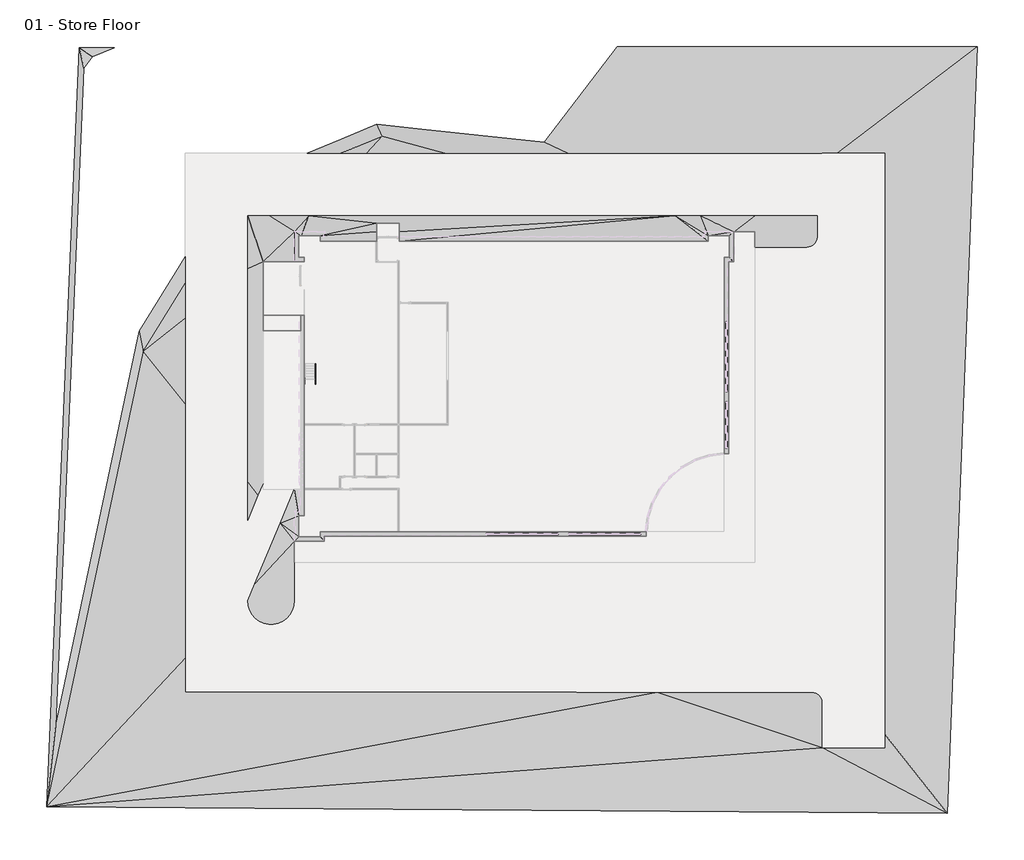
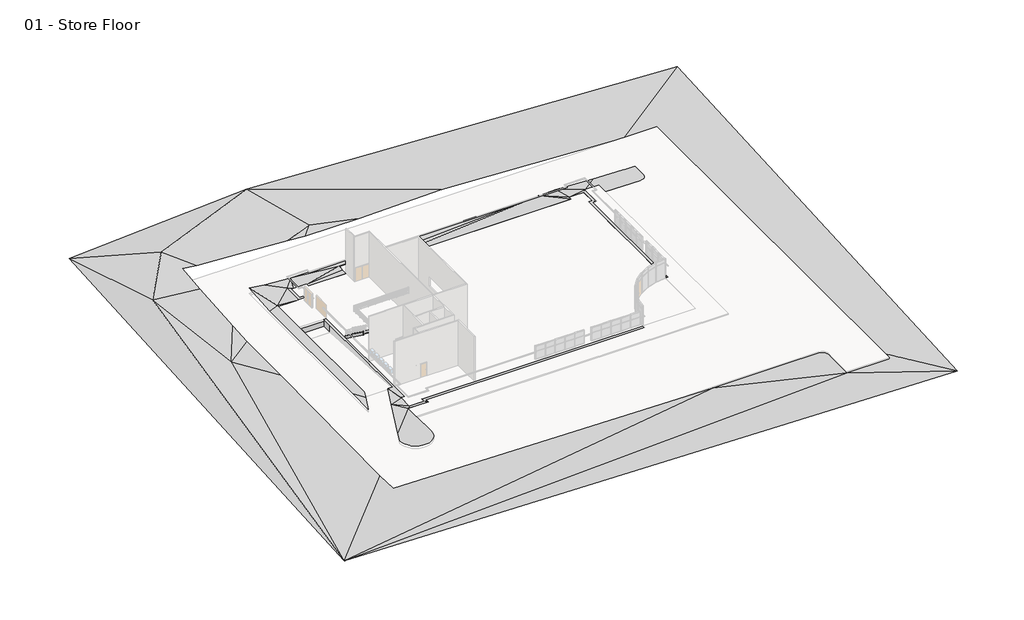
# One storey, part 5 of 5: 4 proxies, 2 members.
"""IFC4 building model written with IfcOpenShell, lengths in millimetres."""

import ifcopenshell
import ifcopenshell.guid

model = None  # the IFC model being written
_history = None  # IfcOwnerHistory: only IFC2X3 demands one
_inside = {}  # id of a spatial element -> (the spatial element, [elements in it])
_under = {}  # id of a project, library or spatial element -> (it, [spatial elements below it])
_declared = {}  # id of a project -> (the project, [libraries it declares])
_typed = {}  # id of a type object -> (the type object, [elements of that type])
_made_of = {}  # id of a material, layer set ... -> (it, [elements and type objects made of it])


def new_model(schema):
    """Start an empty IFC model of exactly this schema.

    Asked for "IFC4X3", IfcOpenShell would pick the latest addendum, in which some entities
    have other attributes; the version numbers below select the first issue.
    IFC2X3 requires an IfcOwnerHistory on every rooted entity: one is made here for all.
    """
    global model, _history
    if schema == "IFC4X3":
        model = ifcopenshell.file(schema_version=(4, 3, 0, 0))
    else:
        model = ifcopenshell.file(schema=schema)
    _inside.clear()
    _under.clear()
    _declared.clear()
    _typed.clear()
    _made_of.clear()
    _history = None
    if model.schema == "IFC2X3":
        org = make("IfcOrganization", Name="unknown")
        user = make(
            "IfcPersonAndOrganization",
            ThePerson=make("IfcPerson", FamilyName="unknown"),
            TheOrganization=org,
        )
        app = make(
            "IfcApplication",
            ApplicationDeveloper=org,
            Version="unknown",
            ApplicationFullName="unknown",
            ApplicationIdentifier="unknown",
        )
        _history = make(
            "IfcOwnerHistory",
            OwningUser=user,
            OwningApplication=app,
            ChangeAction="ADDED",
            CreationDate=0,
        )
    return model


def make(cls, **values):
    """One entity of the class cls with the attributes given. An attribute that is None is left unset."""
    return model.create_entity(
        cls, **{name: value for name, value in values.items() if value is not None}
    )


def rooted(cls, **values):
    """An entity with a GlobalId (a new one), such as an element, a storey or a relation."""
    return make(cls, GlobalId=ifcopenshell.guid.new(), OwnerHistory=_history, **values)


def si_unit(unit_type, name, prefix=None):
    """IfcSIUnit, for example si_unit("LENGTHUNIT", "METRE", prefix="MILLI")."""
    return make("IfcSIUnit", UnitType=unit_type, Prefix=prefix, Name=name)


def assignment(units):
    """IfcUnitAssignment: the units of a project."""
    return None if units is None else make("IfcUnitAssignment", Units=units)


def point(xyz):
    """IfcCartesianPoint."""
    return None if xyz is None else make("IfcCartesianPoint", Coordinates=xyz)


def direction(xyz):
    """IfcDirection."""
    return None if xyz is None else make("IfcDirection", DirectionRatios=xyz)


def frame(location, z_axis=None, x_axis=None):
    """IfcAxis2Placement3D, a coordinate frame: its origin and axes. An axis left out is left unset."""
    return make(
        "IfcAxis2Placement3D",
        Location=point(location),
        Axis=direction(z_axis),
        RefDirection=direction(x_axis),
    )


def origin():
    """The frame at (0, 0, 0) with its axes left unset."""
    return frame((0.0, 0.0, 0.0))


def place(relative_to, where):
    """IfcLocalPlacement: puts the frame where relative to a parent placement (None: the world)."""
    return make(
        "IfcLocalPlacement", PlacementRelTo=relative_to, RelativePlacement=where
    )


def context(
    kind, dimensions, precision=None, world=None, true_north=None, identifier=None
):
    """IfcGeometricRepresentationContext, for example the 3D "Model" context."""
    return make(
        "IfcGeometricRepresentationContext",
        ContextIdentifier=identifier,
        ContextType=kind,
        CoordinateSpaceDimension=dimensions,
        Precision=precision,
        WorldCoordinateSystem=world,
        TrueNorth=true_north,
    )


def project(units=None, contexts=None):
    """IfcProject with its units and contexts."""
    return rooted(
        "IfcProject",
        Name="project",
        RepresentationContexts=contexts,
        UnitsInContext=assignment(units),
    )


def spatial(cls, under=None, at=None, **own):
    """A site, building, storey or space (cls), placed at a placement, below another one or the project."""
    s = rooted(cls, ObjectPlacement=at, **own)
    if under is not None:
        _under.setdefault(under.id(), (under, []))[1].append(s)
    return s


def polyline(points):
    """IfcPolyline through the points."""
    return make("IfcPolyline", Points=[point(p) for p in points])


def point_list(points):
    """IfcCartesianPointList2D or 3D."""
    cls = (
        "IfcCartesianPointList2D" if len(points[0]) == 2 else "IfcCartesianPointList3D"
    )
    return make(cls, CoordList=points)


def outline(outer, holes=None, kind="AREA"):
    """IfcArbitraryClosedProfileDef: a profile drawn as a closed curve; with holes, ...WithVoids."""
    if holes is None:
        return make("IfcArbitraryClosedProfileDef", ProfileType=kind, OuterCurve=outer)
    return make(
        "IfcArbitraryProfileDefWithVoids",
        ProfileType=kind,
        OuterCurve=outer,
        InnerCurves=holes,
    )


def extrude(swept, where, along, depth):
    """IfcExtrudedAreaSolid: the profile swept, set in the frame where, extruded along a direction by depth."""
    return make(
        "IfcExtrudedAreaSolid",
        SweptArea=swept,
        Position=where,
        ExtrudedDirection=direction(along),
        Depth=depth,
    )


def triangles(points, corners, closed=None, point_numbers=None):
    """IfcTriangulatedFaceSet: each triangle names its three corners, points numbered from 1."""
    return make(
        "IfcTriangulatedFaceSet",
        Coordinates=point_list(points),
        Closed=closed,
        CoordIndex=corners,
        PnIndex=point_numbers,
    )


def shape(context_of_items, identifier, shape_type, items):
    """IfcShapeRepresentation: the items that make up one representation, for example the "Body"."""
    return make(
        "IfcShapeRepresentation",
        ContextOfItems=context_of_items,
        RepresentationIdentifier=identifier,
        RepresentationType=shape_type,
        Items=items,
    )


def made_of(thing, what):
    """Note that an element or type object is made of a material, layer set ...; save() writes the relation."""
    if what is not None:
        _made_of.setdefault(what.id(), (what, []))[1].append(thing)
    return thing


def element(
    cls,
    number,
    at=None,
    inside=None,
    cuts=None,
    type_object=None,
    material=None,
    context=None,
    identifier="Body",
    shape_type=None,
    held_by="IfcProductDefinitionShape",
    body=None,
    shapes=None,
    **own,
):
    """One element of the class cls, such as IfcWall. Its Tag is "e" and its number.

    at: its placement. inside: the storey or other place that contains it. cuts: it is an
    opening in that element (IfcRelVoidsElement). A single representation is given by context,
    identifier, shape_type and body (its items); several are given by shapes. held_by: the class
    of the entity that holds the representations. save() writes the other relations.
    """
    e = rooted(cls, Tag="e%d" % number, ObjectPlacement=at, **own)
    if body is not None:
        shapes = [shape(context, identifier, shape_type, body)]
    if shapes is not None:
        e.Representation = make(held_by, Representations=shapes)
    if inside is not None:
        _inside.setdefault(inside.id(), (inside, []))[1].append(e)
    if cuts is not None:
        rooted(
            "IfcRelVoidsElement", RelatingBuildingElement=cuts, RelatedOpeningElement=e
        )
    if type_object is not None:
        _typed.setdefault(type_object.id(), (type_object, []))[1].append(e)
    return made_of(e, material)


def aggregate(whole, parts):
    """IfcRelAggregates: a whole, such as a stair, and the parts it consists of."""
    return rooted("IfcRelAggregates", RelatingObject=whole, RelatedObjects=parts)


def save(model, path):
    """Write the relations noted so far, then the file.

    IfcRelAggregates (storeys below a building ...), IfcRelContainedInSpatialStructure (elements
    in a storey), IfcRelDefinesByType, IfcRelAssociatesMaterial and IfcRelDeclares: one each for
    every whole, place, type object, material and project.
    """
    for whole, parts in _under.values():
        aggregate(whole, parts)
    for where, things in _inside.values():
        rooted(
            "IfcRelContainedInSpatialStructure",
            RelatedElements=things,
            RelatingStructure=where,
        )
    for kind, things in _typed.values():
        rooted("IfcRelDefinesByType", RelatedObjects=things, RelatingType=kind)
    for what, things in _made_of.values():
        rooted("IfcRelAssociatesMaterial", RelatedObjects=things, RelatingMaterial=what)
    for by, libraries in _declared.values():
        rooted("IfcRelDeclares", RelatingContext=by, RelatedDefinitions=libraries)
    model.write(path)


model = new_model("IFC4")

# Units and contexts
model_context = context("Model", 3, world=origin())
ifc_project = project(units=[si_unit("LENGTHUNIT", "METRE", prefix="MILLI")], contexts=[model_context])

# Site, building, storey
site = spatial("IfcSite", under=ifc_project)
building = spatial("IfcBuilding", under=site)
storey = spatial("IfcBuildingStorey", under=building, Name="01 - Store Floor", Elevation=0.0)

# Proxies
placement = place(None, origin())
element("IfcBuildingElementProxy", 1, Name="Building Element Proxy", at=placement, inside=storey, context=model_context, shape_type="Tessellation", body=[
    triangles([(-43566.3082031, 32462.523175, 1000.0000076), (-46716.2229126, -40393.2088623, 1000.0000076), (39777.6557373, -41004.7343262, -500.0000038), (42663.8237549, 32601.6611938, -500.0000038), (-18392.8342987, 32565.4122437, 2500.0000191), (33780.5264465, -34706.930365, -384.9401665), (27780.5275635, -34706.930365, -383.6411179), (27780.5275635, -30406.9323669, -305.9673343), (27731.5840393, -30097.9140198, -300.3747432), (27589.5438721, -29819.144989, -295.30841), (27368.3131897, -29597.9143066, -291.2642528), (27089.5441589, -29455.8741394, -288.6381413), (26780.5281372, -29406.9306152, -287.6871456), (11915.4122314, -29406.9306152, -284.4687919), (-33419.4717407, -29406.9306152, 509.2660807), (-33419.4717407, -26152.3013672, 432.8553014), (-33419.4717407, -1684.9523849, 719.9349804), (-33419.4717407, 6518.3399185, 720.4169277), (-33419.4717407, 9885.0384888, 1000.0000076), (-33419.4717407, 18055.2002563, 1642.8014694), (-33419.4717407, 22343.0687622, 2044.0540123), (-31378.0544861, 22343.0687622, 1780.8529266), (-25462.4923096, 22343.0687622, 1430.5636974), (-18450.5005463, 22343.0687622, 1000.0000076), (-16016.6502686, 22343.0687622, 817.2966974), (-8441.5899673, 22343.0687622, 817.7947048), (3306.7528107, 22343.0687622, 1051.3779762), (29175.0005859, 22343.0687622, -220.2242939), (33780.5264465, 22343.0687622, -317.0081938), (33780.5264465, 15117.0051819, -319.6062183), (33780.5264465, -33407.95849, -361.4759374), (26280.5260986, 13343.0692749, -162.6334778), (26589.5444458, 13392.0116364, -169.1097904), (26868.3134766, 13534.0518036, -174.9169577), (27089.5441589, 13755.2836487, -179.4865371), (27231.5843262, 14034.0515167, -182.3712447), (27280.5278503, 14343.0687012, -183.2886669), (27280.5278503, 16343.0687164, -182.5695974), (21285.7193481, 16343.0687164, -56.5903049), (16043.3172455, 16343.0687164, 201.1098175), (13662.4242004, 16343.0687164, 153.7723545), (-21518.9074402, 16343.0687164, 151.4593325), (-25294.1537476, 16343.0687164, 434.8579408), (-27419.4728577, 16343.0687164, 722.9589964), (-27419.4728577, 11264.0287354, 301.1768745), (-27419.4728577, -9240.2545898, 299.9721152), (-27419.4728577, -12884.300766, 257.215895), (-26417.4247192, -10502.0496643, 229.83499), (-25919.4737183, -9318.2271561, 195.0878195), (-25919.4737183, 5316.5097885, 195.9477053), (-25919.4737183, 6816.5095093, 196.0358358), (-25919.4737183, 11955.0691132, 196.3377614), (-22896.9000732, 11955.0691132, -14.9999997), (-21990.4716797, 11955.0691132, -14.9999997), (-21990.4716797, 12384.0685089, -14.9999997), (-22490.4737183, 12384.0685089, -14.9999997), (-22490.4737183, 14414.0690186, -14.9999997), (-22283.239856, 14414.0690186, -14.9999997), (-20460.4720459, 14414.0690186, -14.9999997), (-20460.4720459, 13914.0681427, -14.9999997), (-15030.2232697, 13914.0681427, -14.9999997), (-15030.2232697, 14838.4070709, -14.9999997), (-15030.2232697, 15634.0689697, 73.2489038), (-12830.2226715, 15634.0689697, 73.3935443), (-12830.2226715, 14837.1024994, -14.9999997), (-12830.2226715, 13914.0681427, -14.9999997), (16821.5267212, 13914.0681427, -14.9999997), (16821.5267212, 14414.0690186, -14.9999997), (18851.5272308, 14414.0690186, -14.9999997), (18851.5272308, 12384.0685089, -14.9999997), (18351.5275177, 12384.0685089, -14.9999997), (18351.5275177, -6481.9310944, -14.9999997), (18780.5269135, -6481.9310944, -14.9999997), (18780.5269135, 11955.0691132, -14.9999997), (19231.5447327, 11955.0691132, -14.9999997), (19280.5277893, 11955.0691132, -16.029345), (19280.5277893, 14818.0687775, -14.9999997), (19280.5277893, 14843.0684143, -14.0659235), (19313.3990387, 14843.0684143, -15.6818087), (21280.5266418, 14843.0684143, -57.0204839), (21280.5266418, 13343.0692749, -57.559786), (-22919.473114, -16906.9308105, 31.9598247), (-22919.473114, -14906.7308075, -14.9999997), (-20031.4726501, -14906.7308075, -15.6252635), (-20031.4726501, -14872.1166412, -14.9999997), (-20031.4726501, -14406.9310822, -14.9999997), (10855.5269257, -14406.9310822, -14.9999997), (10855.5269257, -13977.9316864, -14.9999997), (-20460.4720459, -13977.9316864, -14.9999997), (-20460.4720459, -14477.7314117, -14.9999997), (-22490.4737183, -14477.7314117, -14.9999997), (-22490.4737183, -12447.7309021, -14.9999997), (-21990.4716797, -12447.7309021, -14.9999997), (-21990.4716797, 6816.5095093, -14.9999997), (-22319.4725281, 6816.5095093, -14.9999997), (-22319.4725281, 5316.5097885, -14.9999997), (-22319.4725281, -9923.4907928, -14.9999997), (-22915.2849976, -9923.4907928, -14.9999997), (-22919.473114, -9923.4907928, -14.7072021), (-24289.7755188, -13181.2233398, 80.9126756), (-26734.0263245, -18992.1430664, 147.701713), (-27419.4728577, -20621.7110413, 197.9609908), (-27370.3037659, -21089.5127197, 208.0829929), (-27224.9498474, -21536.8691345, 216.040901), (-26989.7618774, -21944.2279907, 221.4869712), (-26675.0159729, -22293.7880493, 224.1831366), (-26294.471759, -22570.2688477, 224.0115809), (-25864.7607788, -22761.5897278, 220.9798074), (-25404.6609558, -22859.386084, 215.2203116), (-24934.2826904, -22859.386084, 206.9848041), (-24474.1851929, -22761.5897278, 196.6332376), (-24044.4718872, -22570.2688477, 184.6180007), (-23663.9299988, -22293.7880493, 171.4642251), (-23349.1840942, -21944.2279907, 157.746803), (-23113.9961243, -21536.8691345, 144.0652526), (-22968.6398804, -21089.5127197, 131.0175116), (-22919.473114, -20621.7110413, 119.1738304), (-34204.7703186, 26133.4374023, 2500.0000191), (-40234.7441162, 17825.4724182, 2500.0000191), (-14506.8505646, 23989.4473389, 1000.0000076), (-37420.7554138, 3353.5319321, 1000.0000076), (-22894.4723145, 14843.0684143, -14.9999997)], [[2, 15, 16], [121, 2, 16], [102, 108, 109], [102, 107, 108], [109, 110, 102], [103, 106, 107], [106, 103, 104], [102, 103, 107], [101, 102, 117], [104, 105, 106], [111, 102, 110], [46, 47, 48], [112, 113, 102], [113, 114, 102], [116, 102, 115], [117, 102, 116], [102, 114, 115], [117, 82, 101], [83, 100, 101], [92, 99, 100], [100, 83, 91], [101, 82, 83], [92, 98, 99], [97, 92, 93], [92, 97, 98], [84, 91, 83], [92, 100, 91], [111, 112, 102], [14, 15, 2], [121, 18, 19], [18, 121, 17], [121, 19, 119], [45, 51, 52], [49, 50, 46], [51, 45, 50], [121, 16, 17], [119, 21, 118], [21, 119, 20], [5, 1, 118], [118, 1, 119], [21, 22, 118], [1, 2, 119], [44, 52, 43], [20, 119, 19], [52, 44, 45], [118, 22, 23], [119, 2, 121], [45, 46, 50], [122, 52, 53], [97, 94, 96], [93, 94, 97], [94, 95, 96], [46, 48, 49], [53, 54, 56], [42, 43, 122], [57, 122, 53], [122, 57, 58], [43, 52, 122], [55, 56, 54], [58, 42, 122], [59, 42, 58], [56, 57, 53], [5, 118, 23], [89, 90, 86], [91, 84, 90], [85, 90, 84], [86, 88, 89], [85, 86, 90], [88, 86, 87], [74, 71, 72], [72, 73, 74], [74, 75, 70], [76, 70, 75], [74, 70, 71], [10, 8, 9], [7, 8, 13], [6, 3, 31], [3, 6, 7], [7, 14, 2], [8, 10, 11], [80, 81, 32], [33, 37, 32], [11, 12, 13], [37, 33, 34], [13, 8, 11], [35, 37, 34], [31, 3, 30], [7, 13, 14], [2, 3, 7], [76, 77, 70], [62, 59, 61], [61, 59, 60], [63, 59, 62], [64, 65, 41], [66, 41, 65], [41, 42, 64], [5, 23, 24], [120, 5, 24], [24, 25, 120], [63, 64, 42], [26, 27, 5], [26, 120, 25], [5, 120, 26], [5, 27, 4], [42, 59, 63], [68, 40, 41], [68, 69, 78], [78, 69, 77], [78, 79, 39], [38, 32, 37], [69, 70, 77], [37, 35, 36], [68, 78, 40], [78, 39, 40], [39, 79, 80], [39, 80, 32], [39, 32, 38], [29, 4, 28], [4, 29, 30], [30, 3, 4], [4, 27, 28], [68, 41, 67], [67, 41, 66]], closed=False),
])
element("IfcBuildingElementProxy", 2, Name="Building Element Proxy", at=placement, inside=storey, context=model_context, shape_type="Tessellation", body=[
    triangles([(10855.5269257, -13977.9316864, -304.9595106), (10855.5269257, -13977.9316864, -14.9999997), (-20460.4720459, -13977.9316864, -304.9595106), (-20460.4720459, -13977.9316864, -14.9999997), (-20460.4720459, -14477.7314117, -304.9595106), (-20460.4720459, -14477.7314117, -14.9999997), (-22490.4737183, -14477.7314117, -304.9595106), (-22490.4737183, -14477.7314117, -14.9999997), (-22490.4737183, -12447.7309021, -304.9595106), (-22490.4737183, -12447.7309021, -14.9999997), (-21990.4716797, -12447.7309021, -304.9595106), (-21990.4716797, -12447.7309021, -14.9999997), (-21990.4716797, 6816.5095093, -304.9595106), (-21990.4716797, 6816.5095093, -14.9999997), (-22319.4725281, 6816.5095093, -304.9595106), (-22319.4725281, 6816.5095093, -14.9999997)], [[1, 4, 2], [1, 3, 4], [3, 6, 4], [3, 5, 6], [5, 8, 6], [5, 7, 8], [7, 10, 8], [7, 9, 10], [9, 12, 10], [9, 11, 12], [11, 14, 12], [11, 13, 14], [13, 16, 14], [13, 15, 16]], closed=False),
    triangles([(-25919.4737183, 6816.5095093, -304.9595106), (-25919.4737183, 6816.5095093, 196.0358358), (-25919.4737183, 11955.0691132, -304.9595106), (-25919.4737183, 11955.0691132, 196.3377614), (-22896.9000732, 11955.0691132, -304.9595106), (-22896.9000732, 11955.0691132, -14.9999997), (-21990.4716797, 11955.0691132, -304.9595106), (-21990.4716797, 11955.0691132, -14.9999997), (-21990.4716797, 12384.0685089, -304.9595106), (-21990.4716797, 12384.0685089, -14.9999997), (-22490.4737183, 12384.0685089, -304.9595106), (-22490.4737183, 12384.0685089, -14.9999997), (-22490.4737183, 14414.0690186, -304.9595106), (-22490.4737183, 14414.0690186, -14.9999997), (-22283.239856, 14414.0690186, -304.9595106), (-22283.239856, 14414.0690186, -14.9999997), (-20460.4720459, 14414.0690186, -304.9595106), (-20460.4720459, 14414.0690186, -14.9999997), (-20460.4720459, 13914.0681427, -304.9595106), (-20460.4720459, 13914.0681427, -14.9999997), (-15030.2232697, 13914.0681427, -304.9595106), (-15030.2232697, 13914.0681427, -14.9999997), (-15030.2232697, 14838.4070709, -304.9595106), (-15030.2232697, 14838.4070709, -14.9999997), (-15030.2232697, 15634.0689697, -304.9595106), (-15030.2232697, 15634.0689697, 73.2489038), (-12830.2226715, 15634.0689697, -304.9595106), (-12830.2226715, 15634.0689697, 73.3935443), (-12830.2226715, 14837.1024994, -304.9595106), (-12830.2226715, 14837.1024994, -14.9999997), (-12830.2226715, 13914.0681427, -304.9595106), (-12830.2226715, 13914.0681427, -14.9999997), (16821.5267212, 13914.0681427, -304.9595106), (16821.5267212, 13914.0681427, -14.9999997), (16821.5267212, 14414.0690186, -304.9595106), (16821.5267212, 14414.0690186, -14.9999997), (18851.5272308, 14414.0690186, -304.9595106), (18851.5272308, 14414.0690186, -14.9999997), (18851.5272308, 12384.0685089, -304.9595106), (18851.5272308, 12384.0685089, -14.9999997), (18351.5275177, 12384.0685089, -304.9595106), (18351.5275177, 12384.0685089, -14.9999997), (18351.5275177, -6481.9310944, -304.9595106), (18351.5275177, -6481.9310944, -14.9999997)], [[1, 4, 2], [1, 3, 4], [3, 6, 4], [3, 5, 6], [5, 8, 6], [5, 7, 8], [7, 10, 8], [7, 9, 10], [9, 12, 10], [9, 11, 12], [11, 14, 12], [11, 13, 14], [13, 16, 14], [13, 15, 16], [15, 18, 16], [15, 17, 18], [17, 20, 18], [17, 19, 20], [19, 22, 20], [19, 21, 22], [21, 24, 22], [21, 23, 24], [23, 26, 24], [23, 25, 26], [25, 28, 26], [25, 27, 28], [27, 30, 28], [27, 29, 30], [29, 32, 30], [29, 31, 32], [31, 34, 32], [31, 33, 34], [33, 36, 34], [33, 35, 36], [35, 38, 36], [35, 37, 38], [37, 40, 38], [37, 39, 40], [39, 42, 40], [39, 41, 42], [41, 44, 42], [41, 43, 44]], closed=False),
    triangles([(-15030.2232697, 13914.0681427, -304.9595106), (-20460.4720459, 13914.0681427, -304.9595106), (-20460.4720459, 14414.0690186, -304.9595106), (-22490.4737183, 14414.0690186, -304.9595106), (-22490.4737183, 12384.0685089, -304.9595106), (-21990.4716797, 12384.0685089, -304.9595106), (-21990.4716797, 11955.0691132, -304.9595106), (-25919.4737183, 11955.0691132, -304.9595106), (-25919.4737183, 6816.5095093, -304.9595106), (-21990.4716797, 6816.5095093, -304.9595106), (-21990.4716797, -12447.7309021, -304.9595106), (-22490.4737183, -12447.7309021, -304.9595106), (-22490.4737183, -14477.7314117, -304.9595106), (-20460.4720459, -14477.7314117, -304.9595106), (-20460.4720459, -13977.9316864, -304.9595106), (10855.5269257, -13977.9316864, -304.9595106), (18351.5275177, -13977.9316864, -304.9595106), (18351.5275177, -6481.9310944, -304.9595106), (18351.5275177, 12384.0685089, -304.9595106), (18851.5272308, 12384.0685089, -304.9595106), (18851.5272308, 14414.0690186, -304.9595106), (16821.5267212, 14414.0690186, -304.9595106), (16821.5267212, 13914.0681427, -304.9595106), (-12830.2226715, 13914.0681427, -304.9595106), (-12830.2226715, 15634.0689697, -304.9595106), (-15030.2232697, 15634.0689697, -304.9595106)], [[13, 11, 12], [11, 13, 15], [11, 15, 10], [15, 13, 14], [1, 7, 10], [7, 8, 9], [2, 4, 6], [6, 4, 5], [3, 4, 2], [2, 6, 7], [9, 10, 7], [10, 15, 24], [24, 16, 18], [24, 1, 10], [18, 16, 17], [23, 24, 18], [23, 18, 19], [21, 19, 20], [2, 7, 1], [26, 1, 25], [22, 23, 21], [23, 19, 21], [25, 1, 24], [15, 16, 24]], closed=False),
])
element("IfcBuildingElementProxy", 3, Name="Building Element Proxy", at=placement, inside=storey, context=model_context, shape_type="Tessellation", body=[
    triangles([(10855.5269257, -13977.9316864, -304.9595106), (10855.5269257, -13977.9316864, -14.9999997), (10855.5269257, -14406.9310822, -304.9595106), (10855.5269257, -14406.9310822, -14.9999997), (-20031.4726501, -14406.9310822, -304.9595106), (-20031.4726501, -14406.9310822, -14.9999997), (-20031.4726501, -14872.1166412, -304.9595106), (-20031.4726501, -14872.1166412, -14.9999997), (-20031.4726501, -14906.7308075, -304.9595106), (-20031.4726501, -14906.7308075, -15.6252635), (-22919.473114, -14906.7308075, -304.9595106), (-22919.473114, -14906.7308075, -14.9999997), (-22919.473114, -16906.9308105, -304.9595106), (-22919.473114, -16906.9308105, 31.9598247)], [[1, 4, 2], [1, 3, 4], [3, 6, 4], [3, 5, 6], [5, 8, 6], [5, 7, 8], [7, 10, 8], [7, 9, 10], [9, 12, 10], [9, 11, 12], [11, 14, 12], [11, 13, 14]], closed=False),
    triangles([(18351.5275177, -6481.9310944, -304.9595106), (18351.5275177, -6481.9310944, -14.9999997), (18780.5269135, -6481.9310944, -304.9595106), (18780.5269135, -6481.9310944, -14.9999997), (18780.5269135, 11955.0691132, -304.9595106), (18780.5269135, 11955.0691132, -14.9999997), (19231.5447327, 11955.0691132, -304.9595106), (19231.5447327, 11955.0691132, -14.9999997), (19280.5277893, 11955.0691132, -304.9595106), (19280.5277893, 11955.0691132, -16.029345), (19280.5277893, 14818.0687775, -304.9595106), (19280.5277893, 14818.0687775, -14.9999997), (19280.5277893, 14843.0684143, -304.9595106), (19280.5277893, 14843.0684143, -14.0659235), (19313.3990387, 14843.0684143, -304.9595106), (19313.3990387, 14843.0684143, -15.6818087), (21280.5266418, 14843.0684143, -304.9595106), (21280.5266418, 14843.0684143, -57.0204839), (21280.5266418, 13343.0692749, -304.9595106), (21280.5266418, 13343.0692749, -57.559786)], [[1, 4, 2], [1, 3, 4], [3, 6, 4], [3, 5, 6], [5, 8, 6], [5, 7, 8], [7, 10, 8], [7, 9, 10], [9, 12, 10], [9, 11, 12], [11, 14, 12], [11, 13, 14], [13, 16, 14], [13, 15, 16], [15, 18, 16], [15, 17, 18], [17, 20, 18], [17, 19, 20]], closed=False),
    triangles([(21280.5266418, 14843.0684143, -304.9595106), (19280.5277893, 14843.0684143, -304.9595106), (19280.5277893, 11955.0691132, -304.9595106), (18780.5269135, 11955.0691132, -304.9595106), (18780.5269135, -6481.9310944, -304.9595106), (18351.5275177, -6481.9310944, -304.9595106), (18351.5275177, -13977.9316864, -304.9595106), (10855.5269257, -13977.9316864, -304.9595106), (10855.5269257, -14406.9310822, -304.9595106), (-20031.4726501, -14406.9310822, -304.9595106), (-20031.4726501, -14906.7308075, -304.9595106), (-22919.473114, -14906.7308075, -304.9595106), (-22919.473114, -16906.9308105, -304.9595106), (21280.5266418, -16906.9308105, -304.9595106)], [[13, 11, 12], [11, 13, 9], [7, 8, 9], [10, 11, 9], [13, 14, 9], [7, 14, 5], [14, 7, 9], [5, 14, 1], [3, 4, 5], [1, 2, 3], [3, 5, 1], [5, 6, 7]], closed=False),
])
element("IfcBuildingElementProxy", 4, Name="Building Element Proxy", at=placement, inside=storey, context=model_context, shape_type="Tessellation", body=[
    triangles([(-25919.4737183, 5316.5097885, -1369.9595478), (-25919.4737183, 5316.5097885, -1370.3489136), (-22902.4788025, 5316.5097885, -1369.9595478), (-22902.4788025, 5316.5097885, -1370.3489136), (-22319.4725281, 5316.5097885, -1369.9595478), (-22319.4725281, 5316.5097885, -1370.3489136)], [[1, 4, 2], [1, 3, 4], [3, 6, 4], [3, 5, 6]], closed=False),
    triangles([(-25919.4737183, 6816.5095093, -1369.9595478), (-25919.4737183, 6816.5095093, -304.9595106), (-22901.2184143, 6816.5095093, -1369.9595478), (-22901.2184143, 6816.5095093, -304.9595106), (-22319.4725281, 6816.5095093, -1369.9595478), (-22319.4725281, 6816.5095093, -304.9595106)], [[1, 4, 2], [1, 3, 4], [3, 6, 4], [3, 5, 6]], closed=False),
    triangles([(-22319.4725281, 5316.5097885, -1369.9595478), (-22319.4725281, 5316.5097885, -14.9999997), (-22319.4725281, 6816.5095093, -1369.9595478), (-22319.4725281, 6816.5095093, -14.9999997)], [[1, 4, 2], [1, 3, 4]], closed=False),
    triangles([(-25919.4737183, 6816.5095093, -1369.9595478), (-25919.4737183, 6816.5095093, 196.0358358), (-25919.4737183, 5316.5097885, -1369.9595478), (-25919.4737183, 5316.5097885, 195.9477053)], [[1, 4, 2], [1, 3, 4]], closed=False),
    triangles([(-25919.4737183, 6816.5095093, -1369.9595478), (-25919.4737183, 5316.5097885, -1369.9595478), (-22319.4725281, 5316.5097885, -1369.9595478), (-22319.4725281, 6816.5095093, -1369.9595478)], [[1, 2, 3], [3, 4, 1]], closed=False),
])

# Members
element("IfcMember", 5, ObjectType="Stringer - 50mm Width", at=placement, inside=storey, context=model_context, shape_type="SweptSolid", body=[
    extrude(outline(polyline([(2162.3520298, 251.32694), (2162.3520298, 0.0), (1829.1286644, 0.0), (-2337.6479702, 3070.2564676), (-2337.6479702, 3567.1164137), (2162.3520298, 251.32694)])), frame((-20940.4727721, 0.0, 0.0), z_axis=(1.0, 0.0, 0.0), x_axis=(0.0, 1.0, 0.0)), (0.0, 0.0, 1.0), 50.0),
])
element("IfcMember", 6, ObjectType="Stringer - 50mm Width", at=placement, inside=storey, context=model_context, shape_type="SweptSolid", body=[
    extrude(outline(polyline([(2162.3520298, 251.32694), (2162.3520298, 0.0), (1829.1286644, 0.0), (-2337.6479702, 3070.2564676), (-2337.6479702, 3567.1164137), (2162.3520298, 251.32694)])), frame((-21990.4727721, 0.0, 0.0), z_axis=(1.0, 0.0, 0.0), x_axis=(0.0, 1.0, 0.0)), (0.0, 0.0, 1.0), 50.0),
])

save(model, "model.ifc")
